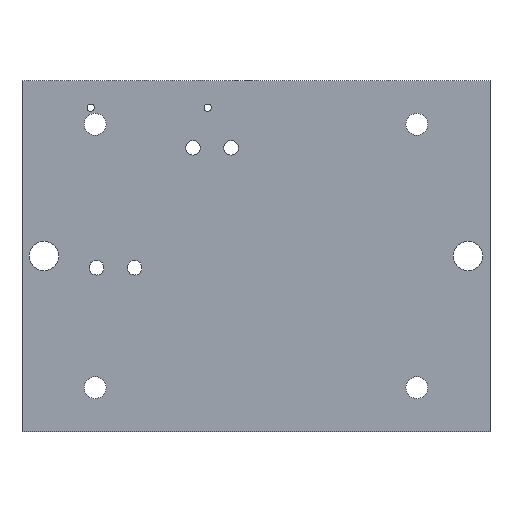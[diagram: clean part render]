
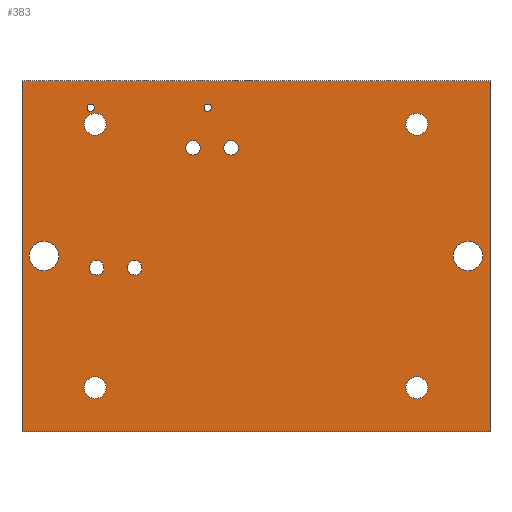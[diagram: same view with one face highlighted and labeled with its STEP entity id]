
A CAD part, front view. The second image highlights one B-rep face of the part: STEP entity #383.
In plain terms, the highlighted planar face has unit normal (0, -1, 0).
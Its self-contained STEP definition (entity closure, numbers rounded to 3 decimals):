
#32=FACE_BOUND('',#94,.T.);
#33=FACE_BOUND('',#95,.T.);
#34=FACE_BOUND('',#96,.T.);
#35=FACE_BOUND('',#97,.T.);
#36=FACE_BOUND('',#98,.T.);
#37=FACE_BOUND('',#99,.T.);
#38=FACE_BOUND('',#100,.T.);
#39=FACE_BOUND('',#101,.T.);
#40=FACE_BOUND('',#102,.T.);
#41=FACE_BOUND('',#103,.T.);
#42=FACE_BOUND('',#104,.T.);
#43=FACE_BOUND('',#105,.T.);
#45=PLANE('',#440);
#63=FACE_OUTER_BOUND('',#93,.T.);
#93=EDGE_LOOP('',(#326,#327,#328,#329));
#94=EDGE_LOOP('',(#330));
#95=EDGE_LOOP('',(#331));
#96=EDGE_LOOP('',(#332));
#97=EDGE_LOOP('',(#333));
#98=EDGE_LOOP('',(#334));
#99=EDGE_LOOP('',(#335));
#100=EDGE_LOOP('',(#336));
#101=EDGE_LOOP('',(#337));
#102=EDGE_LOOP('',(#338));
#103=EDGE_LOOP('',(#339));
#104=EDGE_LOOP('',(#340));
#105=EDGE_LOOP('',(#341));
#126=LINE('',#646,#150);
#127=LINE('',#648,#151);
#128=LINE('',#650,#152);
#129=LINE('',#651,#153);
#150=VECTOR('',#542,1000.);
#151=VECTOR('',#543,1000.);
#152=VECTOR('',#544,1000.);
#153=VECTOR('',#545,1000.);
#158=CIRCLE('',#404,0.5);
#160=CIRCLE('',#407,0.5);
#162=CIRCLE('',#410,0.5);
#164=CIRCLE('',#413,0.5);
#166=CIRCLE('',#416,0.25);
#168=CIRCLE('',#419,0.25);
#170=CIRCLE('',#422,0.75);
#172=CIRCLE('',#425,1.);
#174=CIRCLE('',#428,0.75);
#176=CIRCLE('',#431,0.75);
#178=CIRCLE('',#434,0.75);
#180=CIRCLE('',#437,1.);
#182=VERTEX_POINT('',#563);
#184=VERTEX_POINT('',#569);
#186=VERTEX_POINT('',#575);
#188=VERTEX_POINT('',#581);
#190=VERTEX_POINT('',#587);
#192=VERTEX_POINT('',#593);
#194=VERTEX_POINT('',#599);
#196=VERTEX_POINT('',#605);
#198=VERTEX_POINT('',#611);
#200=VERTEX_POINT('',#617);
#202=VERTEX_POINT('',#623);
#204=VERTEX_POINT('',#629);
#210=VERTEX_POINT('',#644);
#211=VERTEX_POINT('',#645);
#212=VERTEX_POINT('',#647);
#213=VERTEX_POINT('',#649);
#214=EDGE_CURVE('',#182,#182,#158,.T.);
#217=EDGE_CURVE('',#184,#184,#160,.T.);
#220=EDGE_CURVE('',#186,#186,#162,.T.);
#223=EDGE_CURVE('',#188,#188,#164,.T.);
#226=EDGE_CURVE('',#190,#190,#166,.T.);
#229=EDGE_CURVE('',#192,#192,#168,.T.);
#232=EDGE_CURVE('',#194,#194,#170,.T.);
#235=EDGE_CURVE('',#196,#196,#172,.T.);
#238=EDGE_CURVE('',#198,#198,#174,.T.);
#241=EDGE_CURVE('',#200,#200,#176,.T.);
#244=EDGE_CURVE('',#202,#202,#178,.T.);
#247=EDGE_CURVE('',#204,#204,#180,.T.);
#254=EDGE_CURVE('',#210,#211,#126,.T.);
#255=EDGE_CURVE('',#212,#210,#127,.T.);
#256=EDGE_CURVE('',#213,#212,#128,.T.);
#257=EDGE_CURVE('',#211,#213,#129,.T.);
#326=ORIENTED_EDGE('',*,*,#254,.F.);
#327=ORIENTED_EDGE('',*,*,#255,.F.);
#328=ORIENTED_EDGE('',*,*,#256,.F.);
#329=ORIENTED_EDGE('',*,*,#257,.F.);
#330=ORIENTED_EDGE('',*,*,#214,.T.);
#331=ORIENTED_EDGE('',*,*,#217,.T.);
#332=ORIENTED_EDGE('',*,*,#220,.T.);
#333=ORIENTED_EDGE('',*,*,#223,.T.);
#334=ORIENTED_EDGE('',*,*,#226,.T.);
#335=ORIENTED_EDGE('',*,*,#229,.T.);
#336=ORIENTED_EDGE('',*,*,#247,.T.);
#337=ORIENTED_EDGE('',*,*,#244,.T.);
#338=ORIENTED_EDGE('',*,*,#241,.T.);
#339=ORIENTED_EDGE('',*,*,#238,.T.);
#340=ORIENTED_EDGE('',*,*,#235,.T.);
#341=ORIENTED_EDGE('',*,*,#232,.T.);
#383=ADVANCED_FACE('',(#63,#32,#33,#34,#35,#36,#37,#38,#39,#40,#41,#42,
#43),#45,.T.);
#404=AXIS2_PLACEMENT_3D('',#564,#452,#453);
#407=AXIS2_PLACEMENT_3D('',#570,#459,#460);
#410=AXIS2_PLACEMENT_3D('',#576,#466,#467);
#413=AXIS2_PLACEMENT_3D('',#582,#473,#474);
#416=AXIS2_PLACEMENT_3D('',#588,#480,#481);
#419=AXIS2_PLACEMENT_3D('',#594,#487,#488);
#422=AXIS2_PLACEMENT_3D('',#600,#494,#495);
#425=AXIS2_PLACEMENT_3D('',#606,#501,#502);
#428=AXIS2_PLACEMENT_3D('',#612,#508,#509);
#431=AXIS2_PLACEMENT_3D('',#618,#515,#516);
#434=AXIS2_PLACEMENT_3D('',#624,#522,#523);
#437=AXIS2_PLACEMENT_3D('',#630,#529,#530);
#440=AXIS2_PLACEMENT_3D('',#643,#540,#541);
#452=DIRECTION('center_axis',(0.,1.,0.));
#453=DIRECTION('ref_axis',(1.,0.,0.));
#459=DIRECTION('center_axis',(0.,1.,0.));
#460=DIRECTION('ref_axis',(1.,0.,0.));
#466=DIRECTION('center_axis',(0.,1.,0.));
#467=DIRECTION('ref_axis',(1.,0.,0.));
#473=DIRECTION('center_axis',(0.,1.,0.));
#474=DIRECTION('ref_axis',(1.,0.,0.));
#480=DIRECTION('center_axis',(0.,1.,0.));
#481=DIRECTION('ref_axis',(0.,0.,1.));
#487=DIRECTION('center_axis',(0.,1.,0.));
#488=DIRECTION('ref_axis',(0.,0.,1.));
#494=DIRECTION('center_axis',(0.,1.,0.));
#495=DIRECTION('ref_axis',(0.,0.,-1.));
#501=DIRECTION('center_axis',(0.,1.,0.));
#502=DIRECTION('ref_axis',(0.,0.,-1.));
#508=DIRECTION('center_axis',(0.,1.,0.));
#509=DIRECTION('ref_axis',(0.,0.,-1.));
#515=DIRECTION('center_axis',(0.,1.,0.));
#516=DIRECTION('ref_axis',(0.,0.,-1.));
#522=DIRECTION('center_axis',(0.,1.,0.));
#523=DIRECTION('ref_axis',(0.,0.,-1.));
#529=DIRECTION('center_axis',(0.,1.,0.));
#530=DIRECTION('ref_axis',(0.,0.,-1.));
#540=DIRECTION('center_axis',(0.,-1.,0.));
#541=DIRECTION('ref_axis',(0.,0.,-1.));
#542=DIRECTION('',(0.,0.,-1.));
#543=DIRECTION('',(1.,0.,0.));
#544=DIRECTION('',(0.,0.,1.));
#545=DIRECTION('',(-1.,0.,0.));
#563=CARTESIAN_POINT('',(-2.2,0.,7.4));
#564=CARTESIAN_POINT('Origin',(-1.7,0.,7.4));
#569=CARTESIAN_POINT('',(-11.4,0.,-0.8));
#570=CARTESIAN_POINT('Origin',(-10.9,0.,-0.8));
#575=CARTESIAN_POINT('',(-4.8,0.,7.4));
#576=CARTESIAN_POINT('Origin',(-4.3,0.,7.4));
#581=CARTESIAN_POINT('',(-8.8,0.,-0.8));
#582=CARTESIAN_POINT('Origin',(-8.3,0.,-0.8));
#587=CARTESIAN_POINT('',(-3.299,0.,9.888));
#588=CARTESIAN_POINT('Origin',(-3.299,0.,10.138));
#593=CARTESIAN_POINT('',(-11.299,0.,9.888));
#594=CARTESIAN_POINT('Origin',(-11.299,0.,10.138));
#599=CARTESIAN_POINT('',(11.,0.,-9.75));
#600=CARTESIAN_POINT('Origin',(11.,0.,-9.));
#605=CARTESIAN_POINT('',(14.5,0.,-1.));
#606=CARTESIAN_POINT('Origin',(14.5,0.,0.));
#611=CARTESIAN_POINT('',(11.,0.,8.25));
#612=CARTESIAN_POINT('Origin',(11.,0.,9.));
#617=CARTESIAN_POINT('',(-11.,0.,-9.75));
#618=CARTESIAN_POINT('Origin',(-11.,0.,-9.));
#623=CARTESIAN_POINT('',(-11.,0.,8.25));
#624=CARTESIAN_POINT('Origin',(-11.,0.,9.));
#629=CARTESIAN_POINT('',(-14.5,0.,-1.));
#630=CARTESIAN_POINT('Origin',(-14.5,0.,0.));
#643=CARTESIAN_POINT('Origin',(0.,0.,0.));
#644=CARTESIAN_POINT('',(16.,0.,12.));
#645=CARTESIAN_POINT('',(16.,0.,-12.));
#646=CARTESIAN_POINT('',(16.,0.,12.));
#647=CARTESIAN_POINT('',(-16.,0.,12.));
#648=CARTESIAN_POINT('',(-16.,0.,12.));
#649=CARTESIAN_POINT('',(-16.,0.,-12.));
#650=CARTESIAN_POINT('',(-16.,0.,12.));
#651=CARTESIAN_POINT('',(-16.,0.,-12.));
